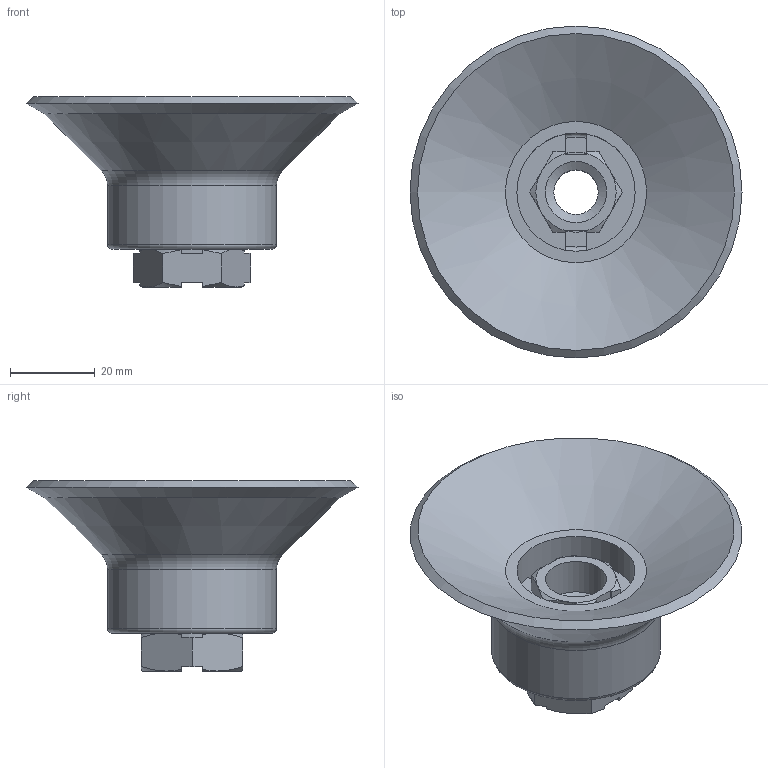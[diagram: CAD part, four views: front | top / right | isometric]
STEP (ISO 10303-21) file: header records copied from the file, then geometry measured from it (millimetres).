
FILE_DESCRIPTION(('STEP AP214'),'1');
FILE_NAME(').stp','2026-03-23T07:32:16',(' '),(' '),'Spatial InterOp 3D',' ',' ');
FILE_SCHEMA(('AUTOMOTIVE_DESIGN { 1 0 10303 214 1 1 1 1 }'));
Length unit declared in the file: millimetre
Products named in the file (7): LFK-M12; NUT; FITTING; LFK-M12-PKMG-75T; PKMG-75T-W
Assembly tree (6 placements, depth 5):
  LFK-M12-PKMG-75T
    LFK-M12
      LFK-M12
        LFK-M12
          NUT
          FITTING
    PKMG-75T-W
Bounding box: 78.58 x 78.58 x 45 mm (x, y, z)
Volume: 43990.4 mm3; surface area: 19855.8 mm2
Topology: 3 solids, 3 shells, 109 faces, 288 edges, 186 vertices
Faces by surface type: plane 55, cone 33, cylinder 18, torus 3
Full cylindrical faces by diameter (mm): 10.5 x2, 14.5 x1, 19 x1, 28 x1, 40 x1
Entity records: 4432 total; most frequent: CARTESIAN_POINT 833, ORIENTED_EDGE 542, DIRECTION 512, EDGE_CURVE 271, AXIS2_PLACEMENT_3D 190, VERTEX_POINT 183, LINE 132, VECTOR 132
